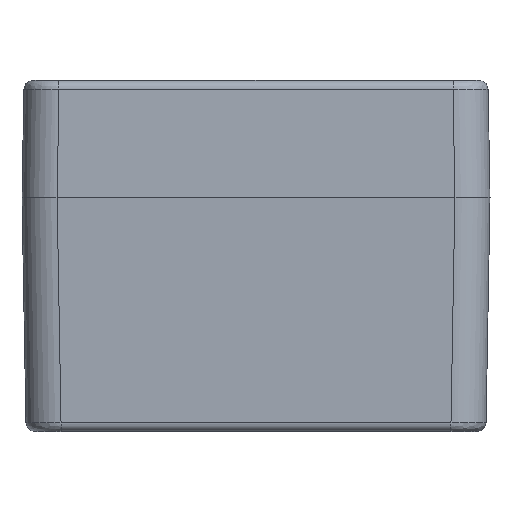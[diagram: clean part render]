
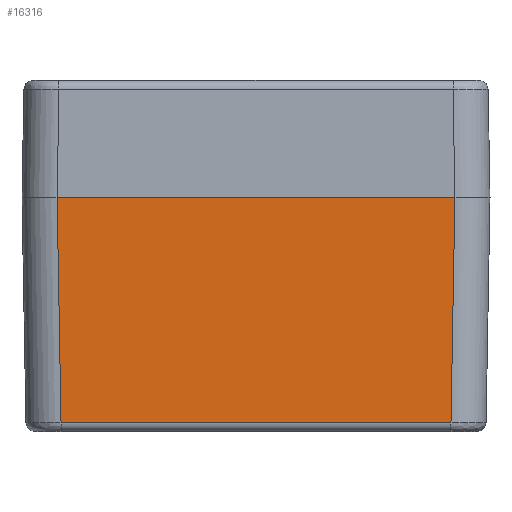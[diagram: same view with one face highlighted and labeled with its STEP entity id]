
A CAD part, front view. The second image highlights one B-rep face of the part: STEP entity #16316.
In plain terms, the highlighted planar face has unit normal (0, -1, -0.018).
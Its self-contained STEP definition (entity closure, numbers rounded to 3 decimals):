
#1999=FACE_OUTER_BOUND('',#3013,.T.);
#3013=EDGE_LOOP('',(#12606,#12607,#12608,#12609));
#4301=LINE('',#26117,#5782);
#4302=LINE('',#26153,#5783);
#4303=LINE('',#26156,#5784);
#4304=LINE('',#26159,#5785);
#5782=VECTOR('',#19848,10.);
#5783=VECTOR('',#19857,10.);
#5784=VECTOR('',#19860,10.);
#5785=VECTOR('',#19865,10.);
#7259=VERTEX_POINT('',#26114);
#7260=VERTEX_POINT('',#26116);
#7261=VERTEX_POINT('',#26149);
#7262=VERTEX_POINT('',#26155);
#9167=EDGE_CURVE('',#7260,#7259,#4301,.T.);
#9171=EDGE_CURVE('',#7260,#7261,#4302,.T.);
#9172=EDGE_CURVE('',#7261,#7262,#4303,.T.);
#9174=EDGE_CURVE('',#7262,#7259,#4304,.T.);
#12606=ORIENTED_EDGE('',*,*,#9171,.F.);
#12607=ORIENTED_EDGE('',*,*,#9167,.T.);
#12608=ORIENTED_EDGE('',*,*,#9174,.F.);
#12609=ORIENTED_EDGE('',*,*,#9172,.F.);
#15669=PLANE('',#17423);
#16316=ADVANCED_FACE('',(#1999),#15669,.T.);
#17423=AXIS2_PLACEMENT_3D('',#26158,#19863,#19864);
#19848=DIRECTION('',(-1.,0.,0.));
#19857=DIRECTION('',(-0.017,0.017,-1.));
#19860=DIRECTION('',(-1.,0.,0.));
#19863=DIRECTION('center_axis',(0.,-1.,-0.017));
#19864=DIRECTION('ref_axis',(-1.,0.,0.));
#19865=DIRECTION('',(-0.017,-0.017,1.));
#26114=CARTESIAN_POINT('',(-34.001,-100.,0.));
#26116=CARTESIAN_POINT('',(34.001,-100.,0.));
#26117=CARTESIAN_POINT('',(40.,-100.,0.));
#26149=CARTESIAN_POINT('',(33.328,-99.328,-38.526));
#26153=CARTESIAN_POINT('',(33.991,-99.99,-0.593));
#26155=CARTESIAN_POINT('',(-33.328,-99.328,-38.526));
#26156=CARTESIAN_POINT('',(-20.,-99.328,-38.526));
#26158=CARTESIAN_POINT('Origin',(-40.,-100.,0.));
#26159=CARTESIAN_POINT('',(-33.972,-99.971,-1.64));
